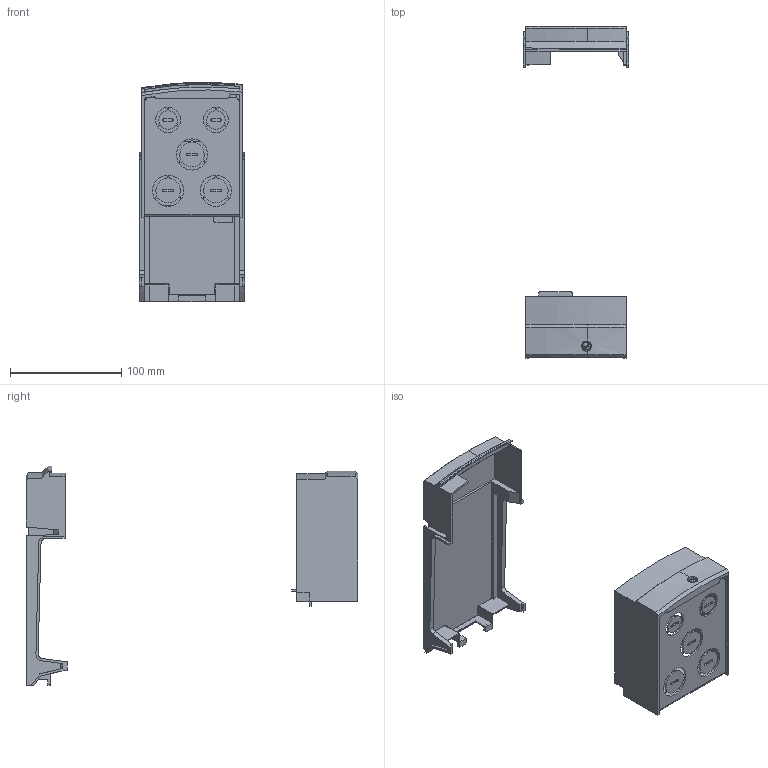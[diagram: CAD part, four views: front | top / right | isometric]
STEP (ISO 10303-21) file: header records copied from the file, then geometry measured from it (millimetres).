
FILE_DESCRIPTION (( 'STEP AP214' ), '1' );
FILE_NAME ('3D 斁麧錪 庉1_2-3_111.STEP', '2016-05-19T09:15:47', ( '' ), ( '' ), 'SwSTEP 2.0', 'SolidWorks 2014', '' );
FILE_SCHEMA (( 'AUTOMOTIVE_DESIGN' ));
Length unit declared in the file: millimetre
Products named in the file (5): 鎔艜 襞旂 17473_M4x12; ﾊﾎ1_2-3 湜跫_1; ﾊﾎ1_2-3 湜跫; ÊÎ1_2-3 âåðõíÿÿ; 3D 斁麧錪 庉1_2-3_111
Assembly tree (4 placements, depth 2):
  3D 斁麧錪 庉1_2-3_111
    ÊÎ1_2-3 âåðõíÿÿ
    ﾊﾎ1_2-3 湜跫
    ﾊﾎ1_2-3 湜跫_1
    鎔艜 襞旂 17473_M4x12
Bounding box: 95 x 298.1 x 197.42 mm (x, y, z)
Volume: 124485.4 mm3; surface area: 128098.9 mm2
Topology: 6 solids, 6 shells, 367 faces, 1042 edges, 690 vertices
Faces by surface type: plane 233, cylinder 119, cone 11, torus 2, sphere 2
Entity records: 12382 total; most frequent: CARTESIAN_POINT 2306, ORIENTED_EDGE 2084, DIRECTION 2020, EDGE_CURVE 1042, LINE 762, VECTOR 762, VERTEX_POINT 690, AXIS2_PLACEMENT_3D 629
